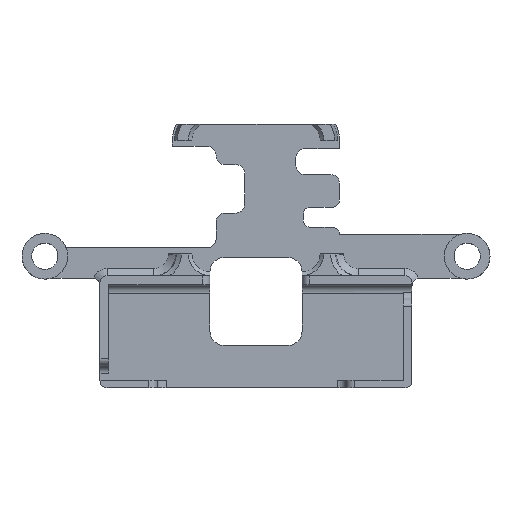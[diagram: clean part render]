
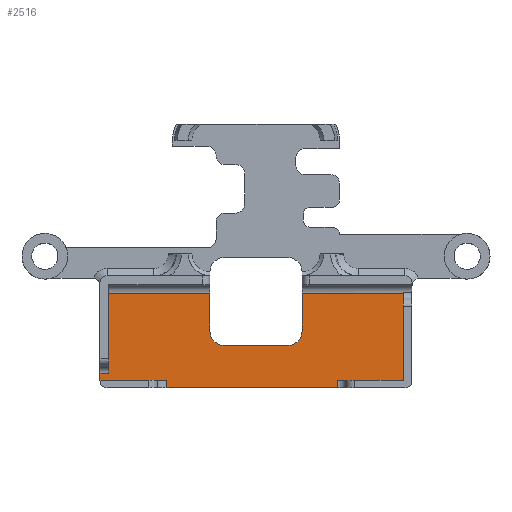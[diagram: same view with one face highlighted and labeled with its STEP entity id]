
A CAD part, top view. The second image highlights one B-rep face of the part: STEP entity #2516.
In plain terms, the highlighted planar face has unit normal (0, 0, 1).
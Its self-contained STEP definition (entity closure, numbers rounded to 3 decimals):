
#35 = VECTOR ( 'NONE', #2788, 1000. ) ;
#41 = VECTOR ( 'NONE', #95, 1000. ) ;
#45 = CARTESIAN_POINT ( 'NONE',  ( -20.3, -24.27, 2.4 ) ) ;
#72 = CARTESIAN_POINT ( 'NONE',  ( 6.35, -13.244, 2.4 ) ) ;
#86 = CARTESIAN_POINT ( 'NONE',  ( -21.5, -25.27, 2.4 ) ) ;
#95 = DIRECTION ( 'NONE',  ( 0., 1., 0. ) ) ;
#107 = CARTESIAN_POINT ( 'NONE',  ( 20.3, -13.244, 2.4 ) ) ;
#147 = VERTEX_POINT ( 'NONE', #107 ) ;
#178 = EDGE_LOOP ( 'NONE', ( #3547, #4609, #4048, #359, #896, #5136, #1411, #4348, #4816, #1670, #4912, #981, #3799, #1982, #3288, #1267 ) ) ;
#359 = ORIENTED_EDGE ( 'NONE', *, *, #992, .T. ) ;
#565 = EDGE_CURVE ( 'NONE', #739, #5065, #5205, .T. ) ;
#634 = VERTEX_POINT ( 'NONE', #45 ) ;
#666 = LINE ( 'NONE', #1477, #35 ) ;
#687 = LINE ( 'NONE', #1204, #2743 ) ;
#708 = CARTESIAN_POINT ( 'NONE',  ( -21.5, -26.27, 2.4 ) ) ;
#728 = EDGE_CURVE ( 'NONE', #3780, #4438, #3725, .T. ) ;
#739 = VERTEX_POINT ( 'NONE', #5009 ) ;
#779 = DIRECTION ( 'NONE',  ( 0., -1., 0. ) ) ;
#839 = DIRECTION ( 'NONE',  ( -1., 0., 0. ) ) ;
#843 = DIRECTION ( 'NONE',  ( -1., 0., 0. ) ) ;
#896 = ORIENTED_EDGE ( 'NONE', *, *, #565, .T. ) ;
#936 = DIRECTION ( 'NONE',  ( 0., -1., 0. ) ) ;
#981 = ORIENTED_EDGE ( 'NONE', *, *, #5080, .T. ) ;
#992 = EDGE_CURVE ( 'NONE', #4062, #739, #687, .T. ) ;
#1044 = LINE ( 'NONE', #4958, #4960 ) ;
#1088 = EDGE_CURVE ( 'NONE', #2517, #3750, #1044, .T. ) ;
#1111 = CARTESIAN_POINT ( 'NONE',  ( -21.5, -24.27, 2.4 ) ) ;
#1136 = EDGE_CURVE ( 'NONE', #147, #4287, #666, .T. ) ;
#1200 = CARTESIAN_POINT ( 'NONE',  ( 11.2, -25.27, 2.4 ) ) ;
#1204 = CARTESIAN_POINT ( 'NONE',  ( 6.35, -20.465, 2.4 ) ) ;
#1267 = ORIENTED_EDGE ( 'NONE', *, *, #1136, .F. ) ;
#1268 = LINE ( 'NONE', #2580, #1315 ) ;
#1283 = AXIS2_PLACEMENT_3D ( 'NONE', #2473, #1935, #3678 ) ;
#1315 = VECTOR ( 'NONE', #839, 1000. ) ;
#1319 = LINE ( 'NONE', #1200, #4126 ) ;
#1356 = DIRECTION ( 'NONE',  ( -1., 0., 0. ) ) ;
#1411 = ORIENTED_EDGE ( 'NONE', *, *, #3791, .T. ) ;
#1423 = CARTESIAN_POINT ( 'NONE',  ( -21.5, -25.27, 2.4 ) ) ;
#1477 = CARTESIAN_POINT ( 'NONE',  ( 20.3, -10.844, 2.4 ) ) ;
#1496 = CARTESIAN_POINT ( 'NONE',  ( -21.5, -24.27, 2.4 ) ) ;
#1570 = VERTEX_POINT ( 'NONE', #2543 ) ;
#1576 = EDGE_CURVE ( 'NONE', #4287, #5359, #3367, .T. ) ;
#1623 = AXIS2_PLACEMENT_3D ( 'NONE', #1869, #4840, #1356 ) ;
#1650 = DIRECTION ( 'NONE',  ( 0., 1., 0. ) ) ;
#1670 = ORIENTED_EDGE ( 'NONE', *, *, #3471, .T. ) ;
#1692 = CARTESIAN_POINT ( 'NONE',  ( -6.35, -18.465, 2.4 ) ) ;
#1825 = LINE ( 'NONE', #1423, #2159 ) ;
#1865 = CARTESIAN_POINT ( 'NONE',  ( 4.35, -20.465, 2.4 ) ) ;
#1869 = CARTESIAN_POINT ( 'NONE',  ( 6.35, 7.81, 2.4 ) ) ;
#1872 = CARTESIAN_POINT ( 'NONE',  ( -21.5, -25.27, 2.4 ) ) ;
#1909 = EDGE_CURVE ( 'NONE', #3750, #4062, #3743, .T. ) ;
#1927 = LINE ( 'NONE', #2920, #2252 ) ;
#1935 = DIRECTION ( 'NONE',  ( 0., 0., -1. ) ) ;
#1939 = DIRECTION ( 'NONE',  ( -1., 0., 0. ) ) ;
#1981 = VECTOR ( 'NONE', #1939, 1000. ) ;
#1982 = ORIENTED_EDGE ( 'NONE', *, *, #5428, .T. ) ;
#2159 = VECTOR ( 'NONE', #936, 1000. ) ;
#2252 = VECTOR ( 'NONE', #5441, 1000. ) ;
#2300 = DIRECTION ( 'NONE',  ( -1., 0., 0. ) ) ;
#2473 = CARTESIAN_POINT ( 'NONE',  ( 4.35, -18.465, 2.4 ) ) ;
#2516 = ADVANCED_FACE ( 'NONE', ( #3609 ), #2642, .F. ) ;
#2517 = VERTEX_POINT ( 'NONE', #72 ) ;
#2543 = CARTESIAN_POINT ( 'NONE',  ( -12.4, -26.27, 2.4 ) ) ;
#2552 = LINE ( 'NONE', #3925, #3715 ) ;
#2567 = VECTOR ( 'NONE', #4658, 1000. ) ;
#2580 = CARTESIAN_POINT ( 'NONE',  ( 6.35, -13.244, 2.4 ) ) ;
#2642 = PLANE ( 'NONE',  #1623 ) ;
#2720 = VERTEX_POINT ( 'NONE', #1496 ) ;
#2743 = VECTOR ( 'NONE', #4174, 1000. ) ;
#2785 = CARTESIAN_POINT ( 'NONE',  ( 6.35, -18.465, 2.4 ) ) ;
#2788 = DIRECTION ( 'NONE',  ( 0., -1., 0. ) ) ;
#2920 = CARTESIAN_POINT ( 'NONE',  ( -20.3, -13.244, 2.4 ) ) ;
#2936 = CARTESIAN_POINT ( 'NONE',  ( 11.2, -26.27, 2.4 ) ) ;
#2938 = DIRECTION ( 'NONE',  ( 0., 1., 0. ) ) ;
#3030 = VERTEX_POINT ( 'NONE', #3922 ) ;
#3220 = DIRECTION ( 'NONE',  ( 1., 0., 0. ) ) ;
#3235 = CARTESIAN_POINT ( 'NONE',  ( -12.4, -25.27, 2.4 ) ) ;
#3258 = EDGE_CURVE ( 'NONE', #634, #5654, #5565, .T. ) ;
#3288 = ORIENTED_EDGE ( 'NONE', *, *, #1576, .F. ) ;
#3338 = VECTOR ( 'NONE', #1650, 1000. ) ;
#3367 = LINE ( 'NONE', #4282, #2567 ) ;
#3469 = AXIS2_PLACEMENT_3D ( 'NONE', #3844, #5303, #843 ) ;
#3471 = EDGE_CURVE ( 'NONE', #2720, #4438, #1825, .T. ) ;
#3547 = ORIENTED_EDGE ( 'NONE', *, *, #3986, .T. ) ;
#3609 = FACE_OUTER_BOUND ( 'NONE', #178, .T. ) ;
#3678 = DIRECTION ( 'NONE',  ( -1., 0., 0. ) ) ;
#3715 = VECTOR ( 'NONE', #779, 1000. ) ;
#3725 = LINE ( 'NONE', #1872, #4451 ) ;
#3743 = CIRCLE ( 'NONE', #1283, 2. ) ;
#3750 = VERTEX_POINT ( 'NONE', #2785 ) ;
#3780 = VERTEX_POINT ( 'NONE', #3235 ) ;
#3791 = EDGE_CURVE ( 'NONE', #3030, #5654, #1927, .T. ) ;
#3799 = ORIENTED_EDGE ( 'NONE', *, *, #5636, .T. ) ;
#3844 = CARTESIAN_POINT ( 'NONE',  ( -4.35, -18.465, 2.4 ) ) ;
#3922 = CARTESIAN_POINT ( 'NONE',  ( -6.35, -13.244, 2.4 ) ) ;
#3925 = CARTESIAN_POINT ( 'NONE',  ( -12.4, -26.27, 2.4 ) ) ;
#3986 = EDGE_CURVE ( 'NONE', #147, #2517, #1268, .T. ) ;
#4006 = LINE ( 'NONE', #4403, #41 ) ;
#4048 = ORIENTED_EDGE ( 'NONE', *, *, #1909, .T. ) ;
#4062 = VERTEX_POINT ( 'NONE', #1865 ) ;
#4091 = EDGE_CURVE ( 'NONE', #5065, #3030, #4006, .T. ) ;
#4121 = VECTOR ( 'NONE', #3220, 1000. ) ;
#4126 = VECTOR ( 'NONE', #2938, 1000. ) ;
#4133 = CARTESIAN_POINT ( 'NONE',  ( -20.3, -13.244, 2.4 ) ) ;
#4174 = DIRECTION ( 'NONE',  ( -1., 0., 0. ) ) ;
#4282 = CARTESIAN_POINT ( 'NONE',  ( -21.5, -25.27, 2.4 ) ) ;
#4287 = VERTEX_POINT ( 'NONE', #5059 ) ;
#4348 = ORIENTED_EDGE ( 'NONE', *, *, #3258, .F. ) ;
#4383 = VERTEX_POINT ( 'NONE', #2936 ) ;
#4403 = CARTESIAN_POINT ( 'NONE',  ( -6.35, 7.81, 2.4 ) ) ;
#4438 = VERTEX_POINT ( 'NONE', #86 ) ;
#4451 = VECTOR ( 'NONE', #2300, 1000. ) ;
#4515 = CARTESIAN_POINT ( 'NONE',  ( -20.3, -10.844, 2.4 ) ) ;
#4584 = EDGE_CURVE ( 'NONE', #634, #2720, #5372, .T. ) ;
#4609 = ORIENTED_EDGE ( 'NONE', *, *, #1088, .T. ) ;
#4658 = DIRECTION ( 'NONE',  ( -1., 0., 0. ) ) ;
#4816 = ORIENTED_EDGE ( 'NONE', *, *, #4584, .T. ) ;
#4840 = DIRECTION ( 'NONE',  ( 0., 0., -1. ) ) ;
#4902 = DIRECTION ( 'NONE',  ( 0., -1., 0. ) ) ;
#4912 = ORIENTED_EDGE ( 'NONE', *, *, #728, .F. ) ;
#4958 = CARTESIAN_POINT ( 'NONE',  ( 6.35, 7.81, 2.4 ) ) ;
#4960 = VECTOR ( 'NONE', #4902, 1000. ) ;
#4998 = LINE ( 'NONE', #708, #4121 ) ;
#5009 = CARTESIAN_POINT ( 'NONE',  ( -4.35, -20.465, 2.4 ) ) ;
#5059 = CARTESIAN_POINT ( 'NONE',  ( 20.3, -25.27, 2.4 ) ) ;
#5065 = VERTEX_POINT ( 'NONE', #1692 ) ;
#5080 = EDGE_CURVE ( 'NONE', #3780, #1570, #2552, .T. ) ;
#5136 = ORIENTED_EDGE ( 'NONE', *, *, #4091, .T. ) ;
#5205 = CIRCLE ( 'NONE', #3469, 2. ) ;
#5303 = DIRECTION ( 'NONE',  ( 0., 0., -1. ) ) ;
#5359 = VERTEX_POINT ( 'NONE', #5630 ) ;
#5372 = LINE ( 'NONE', #1111, #1981 ) ;
#5428 = EDGE_CURVE ( 'NONE', #4383, #5359, #1319, .T. ) ;
#5441 = DIRECTION ( 'NONE',  ( -1., 0., 0. ) ) ;
#5565 = LINE ( 'NONE', #4515, #3338 ) ;
#5630 = CARTESIAN_POINT ( 'NONE',  ( 11.2, -25.27, 2.4 ) ) ;
#5636 = EDGE_CURVE ( 'NONE', #1570, #4383, #4998, .T. ) ;
#5654 = VERTEX_POINT ( 'NONE', #4133 ) ;
